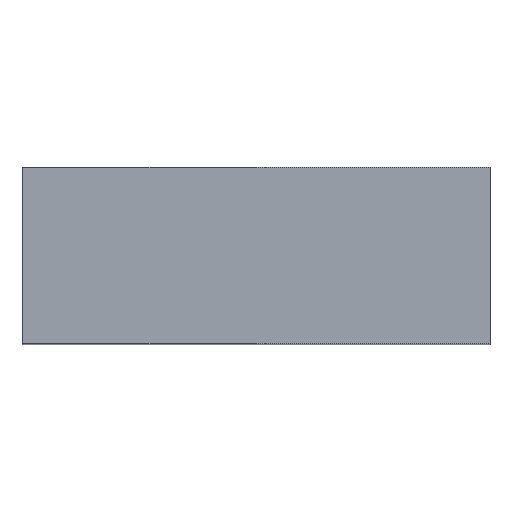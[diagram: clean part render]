
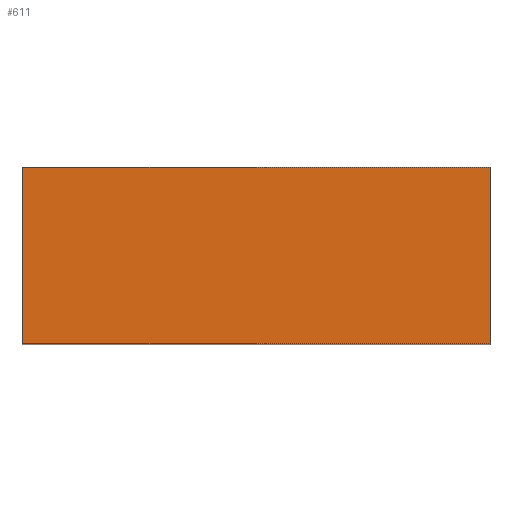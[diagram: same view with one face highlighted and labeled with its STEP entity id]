
A CAD part, top view. The second image highlights one B-rep face of the part: STEP entity #611.
In plain terms, the highlighted planar face has unit normal (0, 0, 1).
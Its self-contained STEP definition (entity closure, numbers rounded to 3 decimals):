
#387=CARTESIAN_POINT('',(3.353,-0.787,5.258));
#386=VERTEX_POINT('',#387);
#397=CARTESIAN_POINT('',(-0.813,-0.787,5.258));
#396=VERTEX_POINT('',#397);
#395=EDGE_CURVE('',#396,#386,#400,.T.);
#400=LINE('',#397,#402);
#402=VECTOR('',#403,4.166);
#403=DIRECTION('',(1.0,0.0,0.0));
#436=CARTESIAN_POINT('',(3.353,0.787,5.258));
#435=VERTEX_POINT('',#436);
#444=EDGE_CURVE('',#386,#435,#449,.T.);
#449=LINE('',#387,#451);
#451=VECTOR('',#452,1.575);
#452=DIRECTION('',(0.0,1.0,0.0));
#485=CARTESIAN_POINT('',(-0.813,0.787,5.258));
#484=VERTEX_POINT('',#485);
#493=EDGE_CURVE('',#435,#484,#498,.T.);
#498=LINE('',#436,#500);
#500=VECTOR('',#501,4.166);
#501=DIRECTION('',(-1.0,0.0,0.0));
#542=EDGE_CURVE('',#484,#396,#547,.T.);
#547=LINE('',#485,#549);
#549=VECTOR('',#550,1.575);
#550=DIRECTION('',(0.0,-1.0,0.0));
#611=ADVANCED_FACE('',(#617),#612,.T.);
#612=PLANE('',#613);
#613=AXIS2_PLACEMENT_3D('',#614,#615,#616);
#614=CARTESIAN_POINT('',(-0.813,-0.787,5.258));
#615=DIRECTION('',(0.0,0.0,1.0));
#616=DIRECTION('',(0.,1.,0.));
#617=FACE_OUTER_BOUND('',#618,.T.);
#618=EDGE_LOOP('',(#619,#629,#639,#649));
#619=ORIENTED_EDGE('',*,*,#395,.T.);
#629=ORIENTED_EDGE('',*,*,#444,.T.);
#639=ORIENTED_EDGE('',*,*,#493,.T.);
#649=ORIENTED_EDGE('',*,*,#542,.T.);
